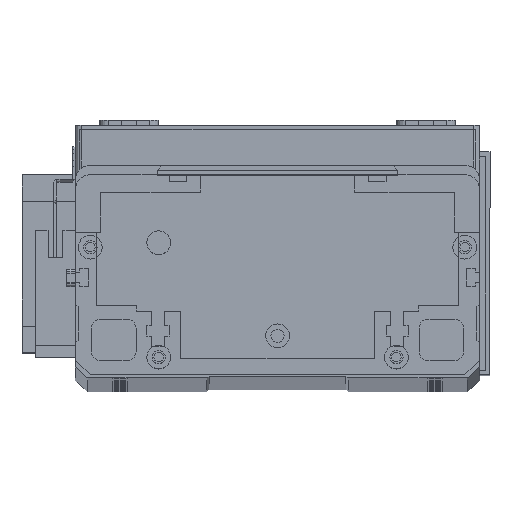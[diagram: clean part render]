
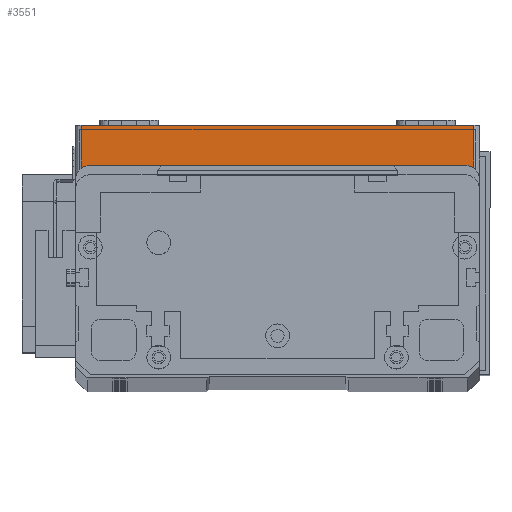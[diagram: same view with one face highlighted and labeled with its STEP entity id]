
A CAD part, top view. The second image highlights one B-rep face of the part: STEP entity #3551.
In plain terms, the highlighted planar face has unit normal (0, 0, 1) as drawn and (0, -1, 0) by its records, which use the part's own axes.
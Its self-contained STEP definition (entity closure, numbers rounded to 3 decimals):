
#317 = DIRECTION ( 'NONE',  ( 0., 0., -1. ) ) ;
#779 = EDGE_CURVE ( 'NONE', #26766, #1009, #1024, .T. ) ;
#796 = LINE ( 'NONE', #9220, #25383 ) ;
#1009 = VERTEX_POINT ( 'NONE', #21749 ) ;
#1024 = LINE ( 'NONE', #22348, #24861 ) ;
#1990 = VERTEX_POINT ( 'NONE', #20898 ) ;
#2538 = VECTOR ( 'NONE', #317, 1000. ) ;
#3007 = ORIENTED_EDGE ( 'NONE', *, *, #21229, .T. ) ;
#3551 = ADVANCED_FACE ( 'NONE', ( #5925 ), #12789, .F. ) ;
#5154 = CARTESIAN_POINT ( 'NONE',  ( 2., 0., 0. ) ) ;
#5589 = DIRECTION ( 'NONE',  ( 0., 1., 0. ) ) ;
#5925 = FACE_OUTER_BOUND ( 'NONE', #11816, .T. ) ;
#7220 = EDGE_CURVE ( 'NONE', #1990, #9192, #17601, .T. ) ;
#9192 = VERTEX_POINT ( 'NONE', #14356 ) ;
#9220 = CARTESIAN_POINT ( 'NONE',  ( 134., 0., 19.5 ) ) ;
#11720 = DIRECTION ( 'NONE',  ( 0., 0., 1. ) ) ;
#11816 = EDGE_LOOP ( 'NONE', ( #30593, #3007, #19871, #20263 ) ) ;
#12789 = PLANE ( 'NONE',  #21296 ) ;
#14356 = CARTESIAN_POINT ( 'NONE',  ( 134., 0., 19.5 ) ) ;
#14583 = CARTESIAN_POINT ( 'NONE',  ( 2., 0., 19.5 ) ) ;
#15178 = DIRECTION ( 'NONE',  ( 0., 0., 1. ) ) ;
#17601 = LINE ( 'NONE', #18068, #29466 ) ;
#18068 = CARTESIAN_POINT ( 'NONE',  ( 0., 0., 19.5 ) ) ;
#18429 = EDGE_CURVE ( 'NONE', #1009, #9192, #796, .T. ) ;
#19871 = ORIENTED_EDGE ( 'NONE', *, *, #779, .T. ) ;
#20069 = LINE ( 'NONE', #14583, #2538 ) ;
#20263 = ORIENTED_EDGE ( 'NONE', *, *, #18429, .T. ) ;
#20898 = CARTESIAN_POINT ( 'NONE',  ( 2., 0., 19.5 ) ) ;
#21229 = EDGE_CURVE ( 'NONE', #1990, #26766, #20069, .T. ) ;
#21296 = AXIS2_PLACEMENT_3D ( 'NONE', #24635, #5589, #15178 ) ;
#21749 = CARTESIAN_POINT ( 'NONE',  ( 134., 0., 0. ) ) ;
#22348 = CARTESIAN_POINT ( 'NONE',  ( 0., 0., 0. ) ) ;
#22460 = DIRECTION ( 'NONE',  ( 1., 0., 0. ) ) ;
#22878 = DIRECTION ( 'NONE',  ( 1., 0., 0. ) ) ;
#24635 = CARTESIAN_POINT ( 'NONE',  ( 0., 0., 19.5 ) ) ;
#24861 = VECTOR ( 'NONE', #22460, 1000. ) ;
#25383 = VECTOR ( 'NONE', #11720, 1000. ) ;
#26766 = VERTEX_POINT ( 'NONE', #5154 ) ;
#29466 = VECTOR ( 'NONE', #22878, 1000. ) ;
#30593 = ORIENTED_EDGE ( 'NONE', *, *, #7220, .F. ) ;
